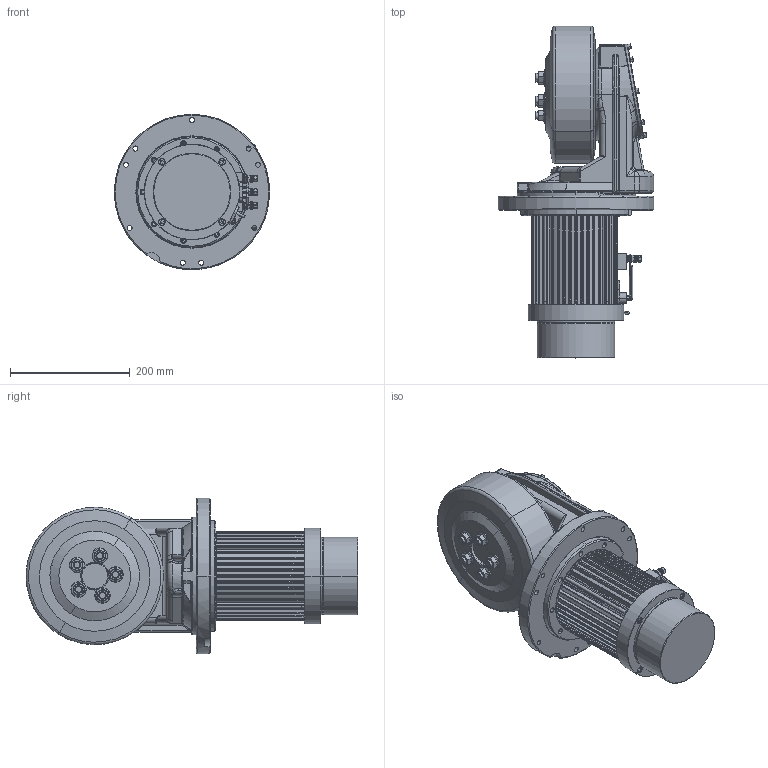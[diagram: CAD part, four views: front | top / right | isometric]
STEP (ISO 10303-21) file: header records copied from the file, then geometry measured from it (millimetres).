
FILE_DESCRIPTION (( 'STEP AP214' ), '1' );
FILE_NAME ('立式230总成（不带转向电机）.STEP', '2022-04-20T02:37:53', ( 'Windows 用户' ), ( '' ), 'SwSTEP 2.0', 'SolidWorks 2019', '' );
FILE_SCHEMA (( 'AUTOMOTIVE_DESIGN' ));
Length unit declared in the file: millimetre
Products named in the file (1): 立式230总成（不带转向电机）
Bounding box: 260 x 555.44 x 260 mm (x, y, z)
Surface area: 661857.5 mm2 (no closed solid volume)
Topology: 0 solids, 129 shells, 1228 faces, 3918 edges, 2719 vertices
Faces by surface type: cylinder 412, plane 405, bspline 199, cone 115, torus 78, sphere 19
Entity records: 76129 total; most frequent: CARTESIAN_POINT 31004, DIRECTION 6177, ORIENTED_EDGE 6033, EDGE_CURVE 3901, VERTEX_POINT 2719, AXIS2_PLACEMENT_3D 2343, LINE 1491, VECTOR 1491
